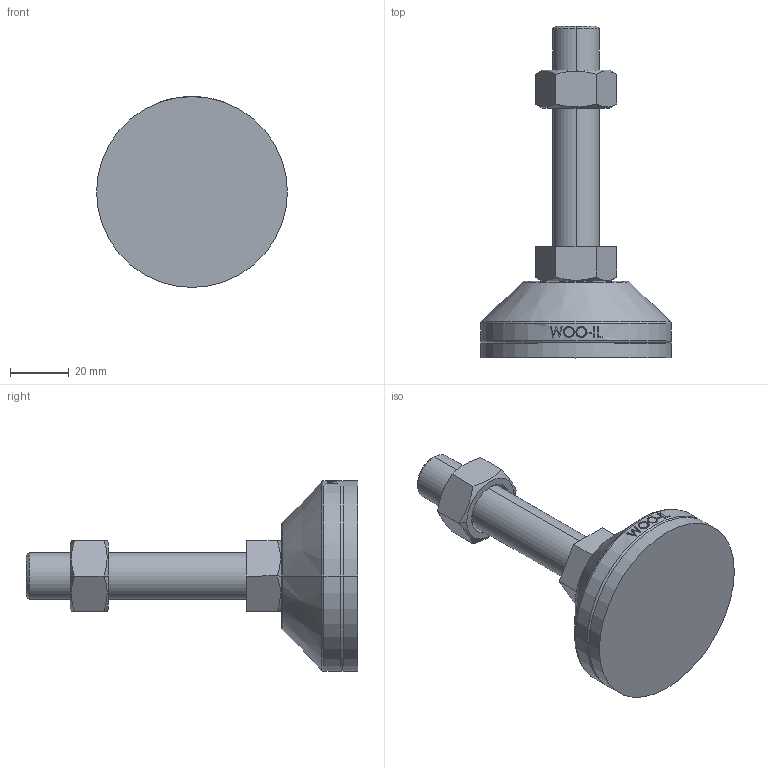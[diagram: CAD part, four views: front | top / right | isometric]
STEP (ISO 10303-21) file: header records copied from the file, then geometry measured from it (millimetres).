
FILE_DESCRIPTION (( 'STEP AP214' ), '1' );
FILE_NAME ('NHNR65-M16-75.step', '2021-01-25T06:17:59', ( '' ), ( '' ), 'SwSTEP 2.0', 'SolidWorks 2019', '' );
FILE_SCHEMA (( 'AUTOMOTIVE_DESIGN' ));
Length unit declared in the file: millimetre
Products named in the file (2): NHNR65-M16-75
Bounding box: 65 x 113 x 65 mm (x, y, z)
Volume: 92638.5 mm3; surface area: 24696.4 mm2
Topology: 4 solids, 4 shells, 105 faces, 239 edges, 152 vertices
Faces by surface type: plane 49, cylinder 18, bspline 16, cone 14, torus 8
Entity records: 4363 total; most frequent: CARTESIAN_POINT 2046, ORIENTED_EDGE 478, DIRECTION 429, EDGE_CURVE 239, AXIS2_PLACEMENT_3D 165, VERTEX_POINT 152, EDGE_LOOP 117, FACE_OUTER_BOUND 105
